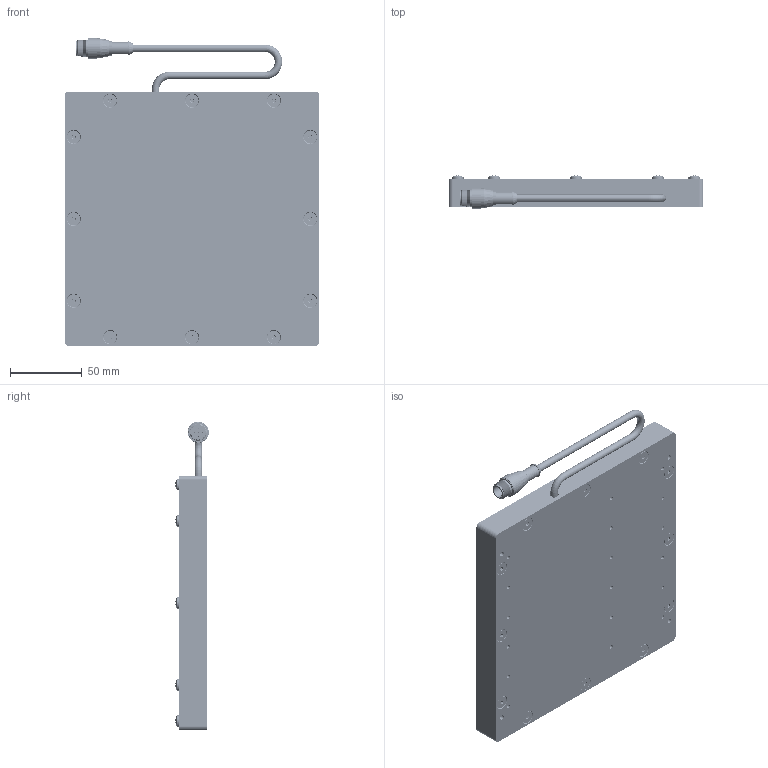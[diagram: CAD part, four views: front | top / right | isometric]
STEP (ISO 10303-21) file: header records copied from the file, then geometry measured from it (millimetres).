
FILE_DESCRIPTION (( 'STEP AP214' ), '1' );
FILE_NAME ('SBL66-XXX.STEP', '2026-04-17T19:19:31', ( '' ), ( '' ), 'SwSTEP 2.0', 'SolidWorks 2025', '' );
FILE_SCHEMA (( 'AUTOMOTIVE_DESIGN' ));
Length unit declared in the file: inch
Products named in the file (11): BackPlate BLYYXX_0606; SBL3 to 18in rail_06in rail; Hex Standoff .375 x 8-32; SC Pigtail Complete 18_5pin; 8-32 x 0.375 FHCS (92210A192)_92210A192; SBL3 to 18in rail_06in No CG; SBL66-XXX; 8-32 x .375 Nylon Screw_.375" 94611A192; WD-SBLYYXX_6x6 with holes; MC Pigtail 24; M12 Connector 4,5 and 8 pin_RS4.5T
Assembly tree (45 placements, depth 3):
  SBL66-XXX
    BackPlate BLYYXX_0606
    SBL3 to 18in rail_06in rail
    SBL3 to 18in rail_06in No CG  x3
    SC Pigtail Complete 18_5pin
      MC Pigtail 24
      M12 Connector 4,5 and 8 pin_RS4.5T
    WD-SBLYYXX_6x6 with holes
    Hex Standoff .375 x 8-32  x12
    8-32 x 0.375 FHCS (92210A192)_92210A192  x12
    8-32 x .375 Nylon Screw_.375" 94611A192  x12
Bounding box: 177.8 x 23.38 x 215.33 mm (x, y, z)
Volume: 305058.8 mm3; surface area: 190844.1 mm2
Topology: 44 solids, 44 shells, 1380 faces, 3430 edges, 2187 vertices
Faces by surface type: plane 517, bspline 324, cylinder 286, cone 211, torus 25, sphere 17
Full cylindrical faces by diameter (mm): 0.762 x5, 2.705 x18, 3.454 x16, 4.496 x36, 5.207 x3, 6.604 x8, 6.858 x12, 8.128 x12, 8.382 x1, 8.636 x1, 9.119 x12, 10.16 x1, 10.541 x1, 11.938 x1, 13.716 x2, 14.732 x1
Entity records: 15744 total; most frequent: CARTESIAN_POINT 5589, DIRECTION 1808, ORIENTED_EDGE 1510, EDGE_CURVE 755, AXIS2_PLACEMENT_3D 755, EDGE_LOOP 628, VERTEX_POINT 565, FACE_OUTER_BOUND 455
